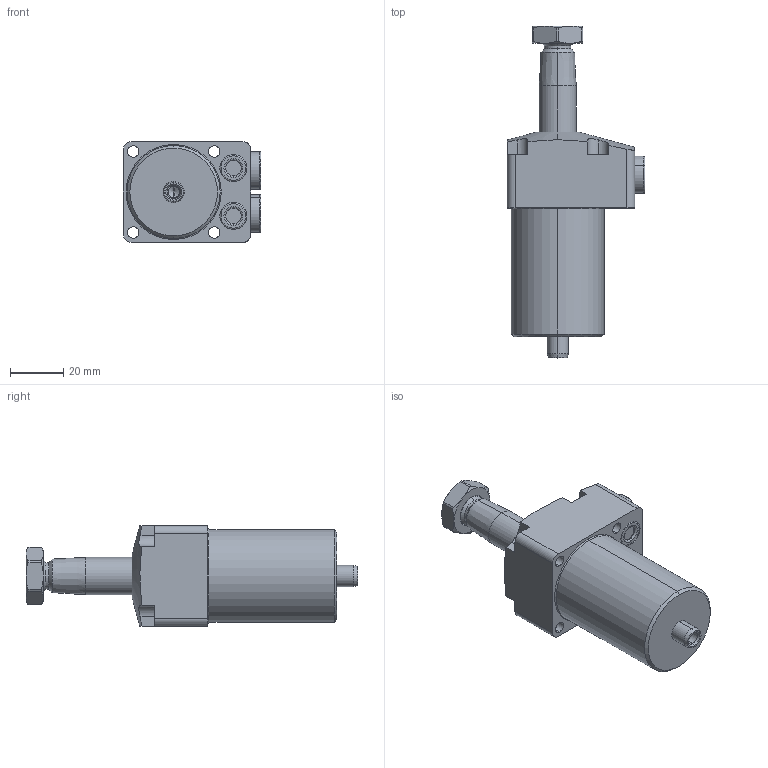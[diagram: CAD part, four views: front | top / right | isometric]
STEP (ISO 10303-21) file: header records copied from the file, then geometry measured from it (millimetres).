
FILE_DESCRIPTION(/* description */ (''),/* implementation_level */ '2;1');
FILE_NAME(/* name */ 'TRC01-RD.stp',/* time_stamp */ '2025-01-04T08:55:42+08:00',/* author */ (''),/* organization */ (''),/* preprocessor_version */ 'ST-DEVELOPER v16.7',/* originating_system */ 'SIEMENS PLM Software NX 12.0',/* authorisation */ '');
FILE_SCHEMA (('AUTOMOTIVE_DESIGN { 1 0 10303 214 3 1 1 1 }'));
Length unit declared in the file: millimetre
Products named in the file (5): TRC01-RD-01; TRC01-RD-02; TRC01-RD-03; TRC01-RD-04; TRC01-RD_stp
Assembly tree (5 placements, depth 2):
  TRC01-RD_stp
    TRC01-RD-04  x2
    TRC01-RD-03
    TRC01-RD-02
    TRC01-RD-01
Bounding box: 51.8 x 125 x 38 mm (x, y, z)
Volume: 97052.1 mm3; surface area: 24353.5 mm2
Topology: 7 solids, 7 shells, 219 faces, 493 edges, 301 vertices
Faces by surface type: cylinder 81, plane 69, cone 46, torus 22, sphere 1
Entity records: 5863 total; most frequent: CARTESIAN_POINT 1222, DIRECTION 1008, ORIENTED_EDGE 888, EDGE_CURVE 444, AXIS2_PLACEMENT_3D 414, VERTEX_POINT 273, EDGE_LOOP 227, CIRCLE 211
